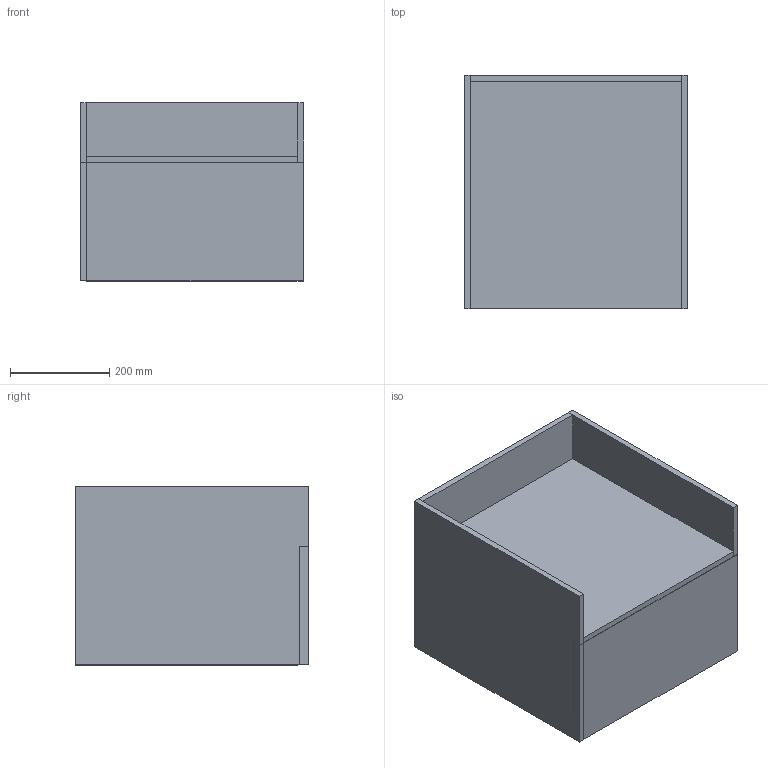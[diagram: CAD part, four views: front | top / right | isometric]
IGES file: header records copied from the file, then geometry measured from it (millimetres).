
Start section: Data from Parasolid IGES Translator 19.0.9, Copyright(c) 2006 Siemens PL M Software. All Rights Reserved.
Global section: file name: noorth-SI-H 36 D 47 W 46,2_8895.igs; native system: By Siemens PLM Incorporated; preprocessor: XPlus GENERIC/IGES 19.0.9; author: Noname; organization: Noname; date: 20200601.094332; units: metre
Bounding box: 450.01 x 470 x 360 mm (x, y, z)
Volume: 15704474.2 mm3; surface area: 2478664.5 mm2
Topology: 9 solids, 9 shells, 54 faces, 108 edges, 72 vertices
Faces by surface type: plane 54
